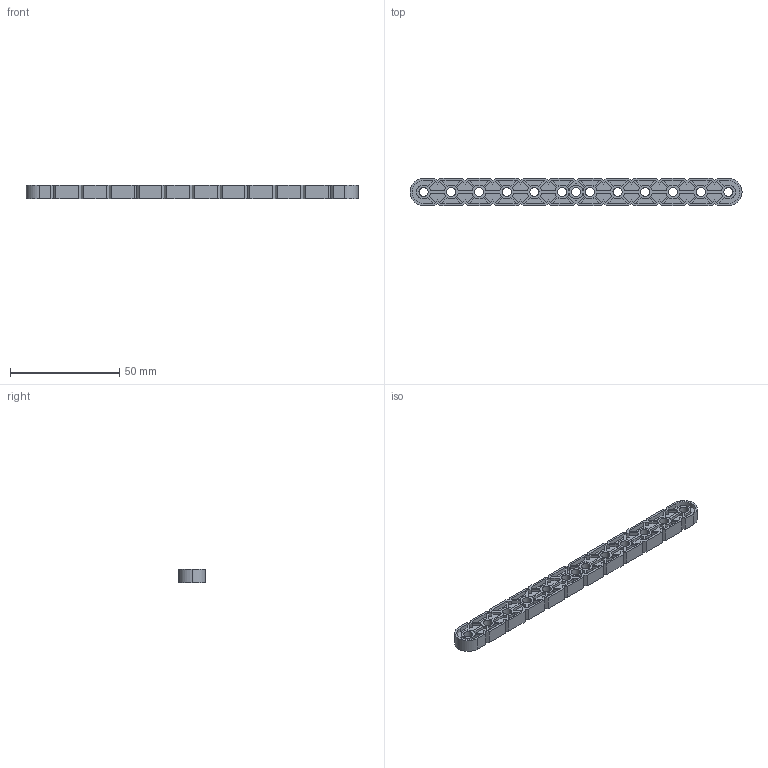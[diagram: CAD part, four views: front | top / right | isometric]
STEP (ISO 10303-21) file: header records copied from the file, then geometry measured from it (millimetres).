
FILE_DESCRIPTION (( 'STEP AP214' ), '1' );
FILE_NAME ('228-2500-011 Rev10.STEP', '2021-02-18T19:12:38', ( '' ), ( '' ), 'SwSTEP 2.0', 'SolidWorks 2019', '' );
FILE_SCHEMA (( 'AUTOMOTIVE_DESIGN' ));
Length unit declared in the file: millimetre
Products named in the file (1): 228-2500-011 Rev10
Bounding box: 152.1 x 12.4 x 6.1 mm (x, y, z)
Volume: 5880.3 mm3; surface area: 9099.6 mm2
Topology: 1 solids, 1 shells, 697 faces, 2079 edges, 1386 vertices
Faces by surface type: plane 524, cylinder 173
Entity records: 23345 total; most frequent: CARTESIAN_POINT 4163, ORIENTED_EDGE 4158, DIRECTION 3821, EDGE_CURVE 2079, VECTOR 1733, LINE 1733, VERTEX_POINT 1386, AXIS2_PLACEMENT_3D 1044
